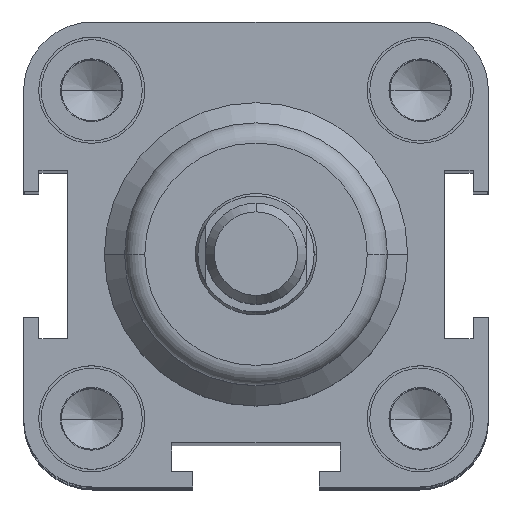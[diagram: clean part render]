
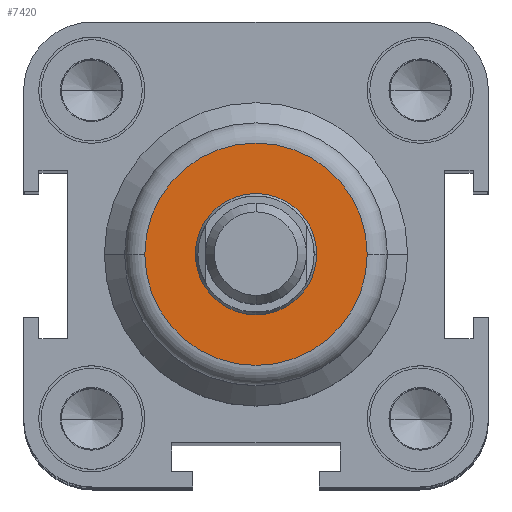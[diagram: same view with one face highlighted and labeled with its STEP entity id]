
A CAD part, top view. The second image highlights one B-rep face of the part: STEP entity #7420.
In plain terms, the highlighted planar face has unit normal (0, 0, 1).
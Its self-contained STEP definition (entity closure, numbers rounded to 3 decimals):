
#1472=CARTESIAN_POINT('',(-11.,0.0,100.5));
#1473=VERTEX_POINT('',#1472);
#1481=CARTESIAN_POINT('',(11.,0.,100.5));
#1482=VERTEX_POINT('',#1481);
#1483=CARTESIAN_POINT('',(0.0,0.0,100.5));
#1484=DIRECTION('',(0.0,0.0,-1.0));
#1485=DIRECTION('',(-1.0,0.0,0.0));
#1486=AXIS2_PLACEMENT_3D('',#1483,#1484,#1485);
#1487=CIRCLE('',#1486,11.);
#1488=EDGE_CURVE('',#1473,#1482,#1487,.T.);
#1593=CARTESIAN_POINT('',(6.,0.0,100.5));
#1594=VERTEX_POINT('',#1593);
#1610=CARTESIAN_POINT('',(-6.,0.,100.5));
#1611=VERTEX_POINT('',#1610);
#1618=CARTESIAN_POINT('',(0.0,0.0,100.5));
#1619=DIRECTION('',(0.0,0.0,-1.0));
#1620=DIRECTION('',(1.0,0.0,0.0));
#1621=AXIS2_PLACEMENT_3D('',#1618,#1619,#1620);
#1622=CIRCLE('',#1621,6.);
#1623=EDGE_CURVE('',#1594,#1611,#1622,.T.);
#7347=CARTESIAN_POINT('',(0.0,0.0,100.5));
#7348=DIRECTION('',(0.0,0.0,-1.0));
#7349=DIRECTION('',(1.0,0.0,0.0));
#7350=AXIS2_PLACEMENT_3D('',#7347,#7348,#7349);
#7351=CIRCLE('',#7350,6.);
#7352=EDGE_CURVE('',#1611,#1594,#7351,.T.);
#7401=CARTESIAN_POINT('',(-5.5,0.0,100.5));
#7402=DIRECTION('',(0.0,0.0,1.0));
#7403=DIRECTION('',(1.0,0.0,0.0));
#7404=AXIS2_PLACEMENT_3D('',#7401,#7402,#7403);
#7405=PLANE('',#7404);
#7406=ORIENTED_EDGE('',*,*,#1488,.F.);
#7407=CARTESIAN_POINT('',(0.0,0.0,100.5));
#7408=DIRECTION('',(0.0,0.0,-1.0));
#7409=DIRECTION('',(-1.0,0.0,0.0));
#7410=AXIS2_PLACEMENT_3D('',#7407,#7408,#7409);
#7411=CIRCLE('',#7410,11.);
#7412=EDGE_CURVE('',#1482,#1473,#7411,.T.);
#7413=ORIENTED_EDGE('',*,*,#7412,.F.);
#7414=EDGE_LOOP('',(#7406,#7413));
#7415=FACE_OUTER_BOUND('',#7414,.T.);
#7416=ORIENTED_EDGE('',*,*,#1623,.T.);
#7417=ORIENTED_EDGE('',*,*,#7352,.T.);
#7418=EDGE_LOOP('',(#7416,#7417));
#7419=FACE_BOUND('',#7418,.T.);
#7420=ADVANCED_FACE('',(#7415,#7419),#7405,.T.);
